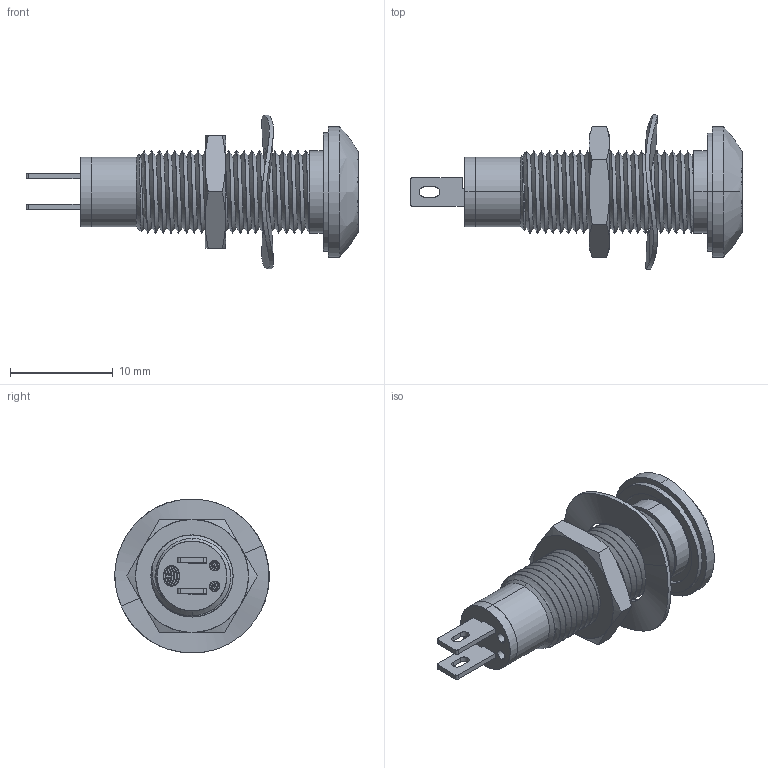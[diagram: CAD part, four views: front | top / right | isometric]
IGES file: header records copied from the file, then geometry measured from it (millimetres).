
Start section: SolidWorks IGES file using analytic representation for surfaces
Global section: file name: C:\Users\paulr\Desktop\534 WITH TAGS.IGS; native system: SolidWorks 2013; preprocessor: SolidWorks 2013; author: paulr; date: 131205.121704; units: millimetre
Bounding box: 32.35 x 15.03 x 14.99 mm (x, y, z)
Surface area: 1926.7 mm2 (no closed solid volume)
Topology: 0 solids, 0 shells, 261 faces, 3681 edges, 3681 vertices
Faces by surface type: bspline 136, revolution 125
